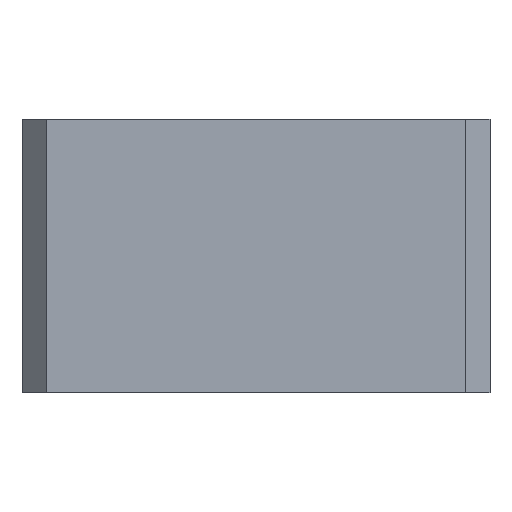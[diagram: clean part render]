
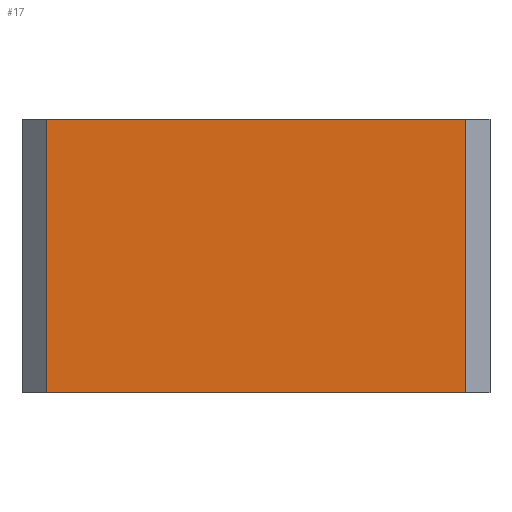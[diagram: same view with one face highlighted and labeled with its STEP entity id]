
A CAD part, front view. The second image highlights one B-rep face of the part: STEP entity #17.
In plain terms, the highlighted planar face has unit normal (0, -1, 0).
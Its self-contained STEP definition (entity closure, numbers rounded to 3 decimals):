
#17 = ADVANCED_FACE('',(#18),#32,.F.);
#18 = FACE_BOUND('',#19,.F.);
#19 = EDGE_LOOP('',(#20,#55,#83,#111));
#20 = ORIENTED_EDGE('',*,*,#21,.T.);
#21 = EDGE_CURVE('',#22,#24,#26,.T.);
#22 = VERTEX_POINT('',#23);
#23 = CARTESIAN_POINT('',(-21.5,-81.,0.));
#24 = VERTEX_POINT('',#25);
#25 = CARTESIAN_POINT('',(-21.5,-81.,28.));
#26 = SURFACE_CURVE('',#27,(#31,#43),.PCURVE_S1.);
#27 = LINE('',#28,#29);
#28 = CARTESIAN_POINT('',(-21.5,-81.,0.));
#29 = VECTOR('',#30,1.);
#30 = DIRECTION('',(0.,0.,1.));
#31 = PCURVE('',#32,#37);
#32 = PLANE('',#33);
#33 = AXIS2_PLACEMENT_3D('',#34,#35,#36);
#34 = CARTESIAN_POINT('',(-21.5,-81.,0.));
#35 = DIRECTION('',(0.,1.,0.));
#36 = DIRECTION('',(1.,0.,0.));
#37 = DEFINITIONAL_REPRESENTATION('',(#38),#42);
#38 = LINE('',#39,#40);
#39 = CARTESIAN_POINT('',(0.,0.));
#40 = VECTOR('',#41,1.);
#41 = DIRECTION('',(0.,-1.));
#42 = ( GEOMETRIC_REPRESENTATION_CONTEXT(2) 
PARAMETRIC_REPRESENTATION_CONTEXT() REPRESENTATION_CONTEXT('2D SPACE',''
  ) );
#43 = PCURVE('',#44,#49);
#44 = PLANE('',#45);
#45 = AXIS2_PLACEMENT_3D('',#46,#47,#48);
#46 = CARTESIAN_POINT('',(-24.,-78.5,0.));
#47 = DIRECTION('',(0.707,0.707,-0.));
#48 = DIRECTION('',(0.707,-0.707,0.));
#49 = DEFINITIONAL_REPRESENTATION('',(#50),#54);
#50 = LINE('',#51,#52);
#51 = CARTESIAN_POINT('',(3.536,0.));
#52 = VECTOR('',#53,1.);
#53 = DIRECTION('',(0.,-1.));
#54 = ( GEOMETRIC_REPRESENTATION_CONTEXT(2) 
PARAMETRIC_REPRESENTATION_CONTEXT() REPRESENTATION_CONTEXT('2D SPACE',''
  ) );
#55 = ORIENTED_EDGE('',*,*,#56,.T.);
#56 = EDGE_CURVE('',#24,#57,#59,.T.);
#57 = VERTEX_POINT('',#58);
#58 = CARTESIAN_POINT('',(21.5,-81.,28.));
#59 = SURFACE_CURVE('',#60,(#64,#71),.PCURVE_S1.);
#60 = LINE('',#61,#62);
#61 = CARTESIAN_POINT('',(-21.5,-81.,28.));
#62 = VECTOR('',#63,1.);
#63 = DIRECTION('',(1.,0.,0.));
#64 = PCURVE('',#32,#65);
#65 = DEFINITIONAL_REPRESENTATION('',(#66),#70);
#66 = LINE('',#67,#68);
#67 = CARTESIAN_POINT('',(0.,-28.));
#68 = VECTOR('',#69,1.);
#69 = DIRECTION('',(1.,0.));
#70 = ( GEOMETRIC_REPRESENTATION_CONTEXT(2) 
PARAMETRIC_REPRESENTATION_CONTEXT() REPRESENTATION_CONTEXT('2D SPACE',''
  ) );
#71 = PCURVE('',#72,#77);
#72 = PLANE('',#73);
#73 = AXIS2_PLACEMENT_3D('',#74,#75,#76);
#74 = CARTESIAN_POINT('',(0.,0.,28.));
#75 = DIRECTION('',(0.,0.,1.));
#76 = DIRECTION('',(1.,0.,-0.));
#77 = DEFINITIONAL_REPRESENTATION('',(#78),#82);
#78 = LINE('',#79,#80);
#79 = CARTESIAN_POINT('',(-21.5,-81.));
#80 = VECTOR('',#81,1.);
#81 = DIRECTION('',(1.,0.));
#82 = ( GEOMETRIC_REPRESENTATION_CONTEXT(2) 
PARAMETRIC_REPRESENTATION_CONTEXT() REPRESENTATION_CONTEXT('2D SPACE',''
  ) );
#83 = ORIENTED_EDGE('',*,*,#84,.F.);
#84 = EDGE_CURVE('',#85,#57,#87,.T.);
#85 = VERTEX_POINT('',#86);
#86 = CARTESIAN_POINT('',(21.5,-81.,0.));
#87 = SURFACE_CURVE('',#88,(#92,#99),.PCURVE_S1.);
#88 = LINE('',#89,#90);
#89 = CARTESIAN_POINT('',(21.5,-81.,0.));
#90 = VECTOR('',#91,1.);
#91 = DIRECTION('',(0.,0.,1.));
#92 = PCURVE('',#32,#93);
#93 = DEFINITIONAL_REPRESENTATION('',(#94),#98);
#94 = LINE('',#95,#96);
#95 = CARTESIAN_POINT('',(43.,0.));
#96 = VECTOR('',#97,1.);
#97 = DIRECTION('',(0.,-1.));
#98 = ( GEOMETRIC_REPRESENTATION_CONTEXT(2) 
PARAMETRIC_REPRESENTATION_CONTEXT() REPRESENTATION_CONTEXT('2D SPACE',''
  ) );
#99 = PCURVE('',#100,#105);
#100 = PLANE('',#101);
#101 = AXIS2_PLACEMENT_3D('',#102,#103,#104);
#102 = CARTESIAN_POINT('',(21.5,-81.,0.));
#103 = DIRECTION('',(-0.707,0.707,0.));
#104 = DIRECTION('',(0.707,0.707,0.));
#105 = DEFINITIONAL_REPRESENTATION('',(#106),#110);
#106 = LINE('',#107,#108);
#107 = CARTESIAN_POINT('',(0.,0.));
#108 = VECTOR('',#109,1.);
#109 = DIRECTION('',(0.,-1.));
#110 = ( GEOMETRIC_REPRESENTATION_CONTEXT(2) 
PARAMETRIC_REPRESENTATION_CONTEXT() REPRESENTATION_CONTEXT('2D SPACE',''
  ) );
#111 = ORIENTED_EDGE('',*,*,#112,.F.);
#112 = EDGE_CURVE('',#22,#85,#113,.T.);
#113 = SURFACE_CURVE('',#114,(#118,#125),.PCURVE_S1.);
#114 = LINE('',#115,#116);
#115 = CARTESIAN_POINT('',(-21.5,-81.,0.));
#116 = VECTOR('',#117,1.);
#117 = DIRECTION('',(1.,0.,0.));
#118 = PCURVE('',#32,#119);
#119 = DEFINITIONAL_REPRESENTATION('',(#120),#124);
#120 = LINE('',#121,#122);
#121 = CARTESIAN_POINT('',(0.,0.));
#122 = VECTOR('',#123,1.);
#123 = DIRECTION('',(1.,0.));
#124 = ( GEOMETRIC_REPRESENTATION_CONTEXT(2) 
PARAMETRIC_REPRESENTATION_CONTEXT() REPRESENTATION_CONTEXT('2D SPACE',''
  ) );
#125 = PCURVE('',#126,#131);
#126 = PLANE('',#127);
#127 = AXIS2_PLACEMENT_3D('',#128,#129,#130);
#128 = CARTESIAN_POINT('',(0.,0.,0.));
#129 = DIRECTION('',(0.,0.,1.));
#130 = DIRECTION('',(1.,0.,-0.));
#131 = DEFINITIONAL_REPRESENTATION('',(#132),#136);
#132 = LINE('',#133,#134);
#133 = CARTESIAN_POINT('',(-21.5,-81.));
#134 = VECTOR('',#135,1.);
#135 = DIRECTION('',(1.,0.));
#136 = ( GEOMETRIC_REPRESENTATION_CONTEXT(2) 
PARAMETRIC_REPRESENTATION_CONTEXT() REPRESENTATION_CONTEXT('2D SPACE',''
  ) );
